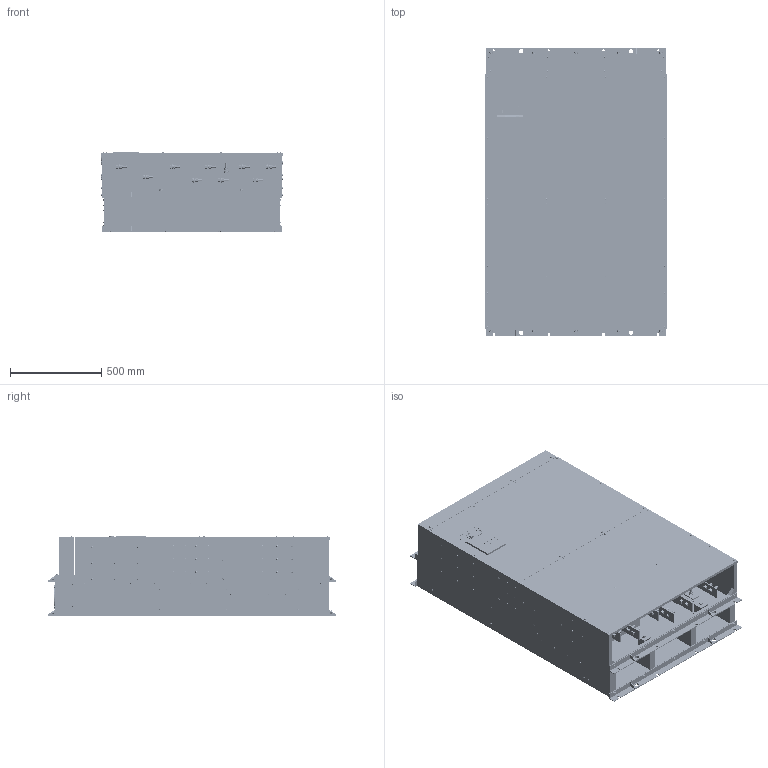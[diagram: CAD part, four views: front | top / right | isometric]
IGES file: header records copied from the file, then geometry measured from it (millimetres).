
Start section:  PTC IGES file: 3d-inv-07_23.igs
Global section: file name: 3d-inv-07_23.igs; native system: Pro/ENGINEER by Parametric Technology Corporation; preprocessor: 2011490; author: ZP59378; organization: Unknown; date: 20130718.181910; units: millimetre
Bounding box: 995.5 x 1580 x 440.2 mm (x, y, z)
Volume: 500805375.4 mm3; surface area: 10669012 mm2
Topology: 2 solids, 140 shells, 6939 faces, 18097 edges, 10985 vertices
Faces by surface type: bspline 6939
